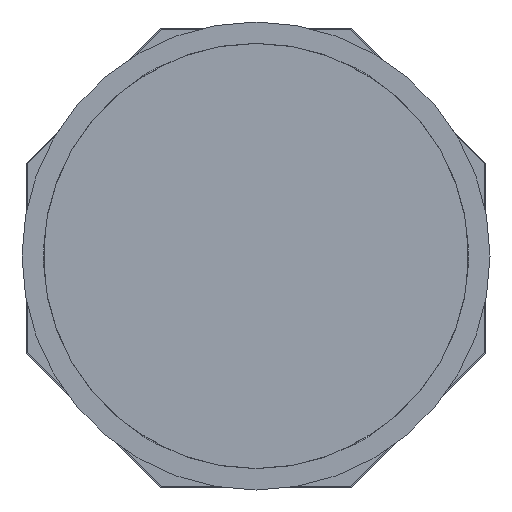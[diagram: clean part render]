
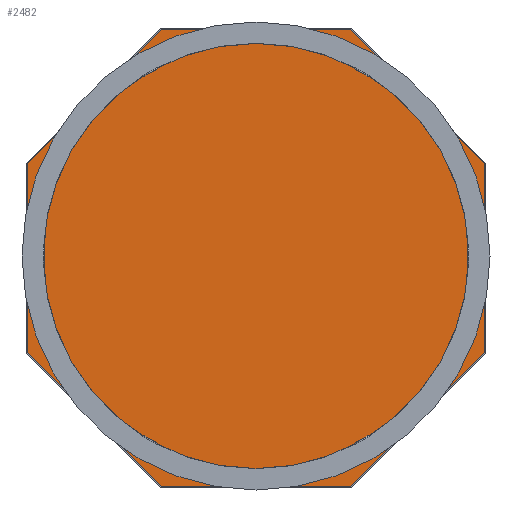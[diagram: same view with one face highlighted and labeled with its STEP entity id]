
A CAD part, front view. The second image highlights one B-rep face of the part: STEP entity #2482.
In plain terms, the highlighted planar face has unit normal (0, -1, 0).
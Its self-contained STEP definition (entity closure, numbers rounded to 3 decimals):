
#2011=DIRECTION('',(0.707,0.,-0.707));
#2012=VECTOR('',#2011,353.738);
#2013=CARTESIAN_POINT('',(-427.,52.,-180.869));
#2014=LINE('',#2013,#2012);
#2019=DIRECTION('',(1.,0.,0.));
#2020=VECTOR('',#2019,353.738);
#2021=CARTESIAN_POINT('',(-176.869,52.,-431.));
#2022=LINE('',#2021,#2020);
#2027=DIRECTION('',(0.707,0.,0.707));
#2028=VECTOR('',#2027,353.738);
#2029=CARTESIAN_POINT('',(176.869,52.,-431.));
#2030=LINE('',#2029,#2028);
#2035=DIRECTION('',(0.,0.,1.));
#2036=VECTOR('',#2035,353.738);
#2037=CARTESIAN_POINT('',(427.,52.,-180.869));
#2038=LINE('',#2037,#2036);
#2043=DIRECTION('',(-0.707,0.,0.707));
#2044=VECTOR('',#2043,353.738);
#2045=CARTESIAN_POINT('',(427.,52.,172.869));
#2046=LINE('',#2045,#2044);
#2051=DIRECTION('',(-1.,0.,0.));
#2052=VECTOR('',#2051,353.738);
#2053=CARTESIAN_POINT('',(176.869,52.,423.));
#2054=LINE('',#2053,#2052);
#2059=DIRECTION('',(-0.707,0.,-0.707));
#2060=VECTOR('',#2059,353.738);
#2061=CARTESIAN_POINT('',(-176.869,52.,423.));
#2062=LINE('',#2061,#2060);
#2067=DIRECTION('',(0.,0.,-1.));
#2068=VECTOR('',#2067,353.738);
#2069=CARTESIAN_POINT('',(-427.,52.,172.869));
#2070=LINE('',#2069,#2068);
#2403=CARTESIAN_POINT('',(-427.,52.,-180.869));
#2404=CARTESIAN_POINT('',(-176.869,52.,-431.));
#2405=VERTEX_POINT('',#2403);
#2406=VERTEX_POINT('',#2404);
#2407=CARTESIAN_POINT('',(176.869,52.,-431.));
#2408=VERTEX_POINT('',#2407);
#2409=CARTESIAN_POINT('',(427.,52.,-180.869));
#2410=VERTEX_POINT('',#2409);
#2411=CARTESIAN_POINT('',(427.,52.,172.869));
#2412=VERTEX_POINT('',#2411);
#2413=CARTESIAN_POINT('',(176.869,52.,423.));
#2414=VERTEX_POINT('',#2413);
#2415=CARTESIAN_POINT('',(-176.869,52.,423.));
#2416=VERTEX_POINT('',#2415);
#2417=CARTESIAN_POINT('',(-427.,52.,172.869));
#2418=VERTEX_POINT('',#2417);
#2459=CARTESIAN_POINT('',(0.,52.,0.));
#2460=DIRECTION('',(0.,1.,0.));
#2461=DIRECTION('',(1.,0.,0.));
#2462=AXIS2_PLACEMENT_3D('',#2459,#2460,#2461);
#2463=PLANE('',#2462);
#2465=ORIENTED_EDGE('',*,*,#2464,.F.);
#2467=ORIENTED_EDGE('',*,*,#2466,.F.);
#2469=ORIENTED_EDGE('',*,*,#2468,.F.);
#2471=ORIENTED_EDGE('',*,*,#2470,.F.);
#2473=ORIENTED_EDGE('',*,*,#2472,.F.);
#2475=ORIENTED_EDGE('',*,*,#2474,.F.);
#2477=ORIENTED_EDGE('',*,*,#2476,.F.);
#2479=ORIENTED_EDGE('',*,*,#2478,.F.);
#2480=EDGE_LOOP('',(#2465,#2467,#2469,#2471,#2473,#2475,#2477,#2479));
#2481=FACE_OUTER_BOUND('',#2480,.F.);
#2464=EDGE_CURVE('',#2405,#2406,#2014,.T.);
#2466=EDGE_CURVE('',#2418,#2405,#2070,.T.);
#2468=EDGE_CURVE('',#2416,#2418,#2062,.T.);
#2470=EDGE_CURVE('',#2414,#2416,#2054,.T.);
#2472=EDGE_CURVE('',#2412,#2414,#2046,.T.);
#2474=EDGE_CURVE('',#2410,#2412,#2038,.T.);
#2476=EDGE_CURVE('',#2408,#2410,#2030,.T.);
#2478=EDGE_CURVE('',#2406,#2408,#2022,.T.);
#2482=ADVANCED_FACE('',(#2481),#2463,.F.);
